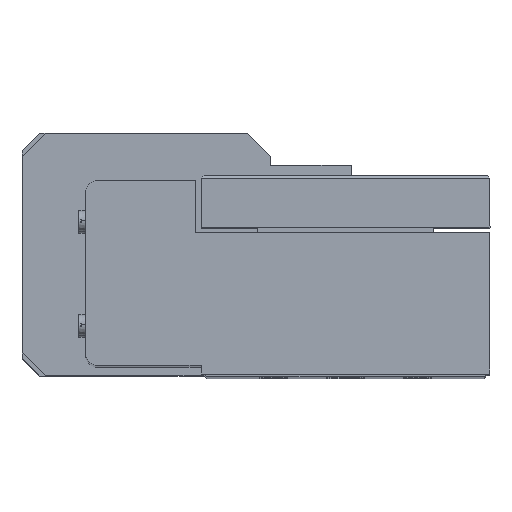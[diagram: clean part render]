
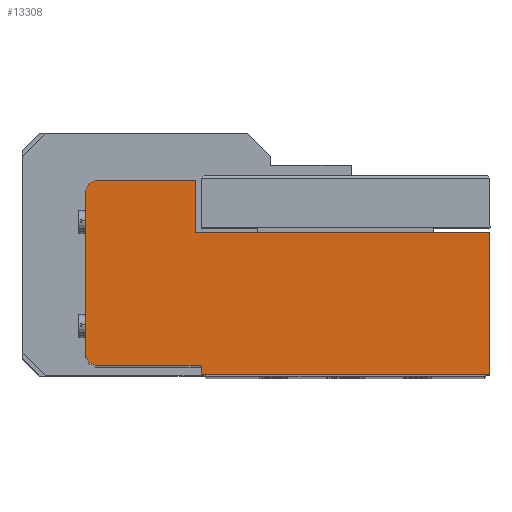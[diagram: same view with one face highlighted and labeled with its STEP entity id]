
A CAD part, top view. The second image highlights one B-rep face of the part: STEP entity #13308.
In plain terms, the highlighted planar face has unit normal (0, 0, 1).
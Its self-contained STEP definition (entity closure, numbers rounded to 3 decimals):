
#7714 = VERTEX_POINT ( 'NONE', #37649 ) ;
#7727 = VERTEX_POINT ( 'NONE', #37689 ) ;
#7758 = EDGE_CURVE ( 'NONE', #7727, #7714, #37775, .T. ) ;
#7775 = VERTEX_POINT ( 'NONE', #37803 ) ;
#7779 = EDGE_CURVE ( 'NONE', #7775, #7727, #37797, .T. ) ;
#7824 = VERTEX_POINT ( 'NONE', #37848 ) ;
#7828 = EDGE_CURVE ( 'NONE', #7824, #7775, #37846, .T. ) ;
#7871 = VERTEX_POINT ( 'NONE', #37960 ) ;
#7877 = EDGE_CURVE ( 'NONE', #7871, #7824, #37952, .T. ) ;
#8425 = VERTEX_POINT ( 'NONE', #39080 ) ;
#8432 = EDGE_CURVE ( 'NONE', #8425, #7871, #39074, .T. ) ;
#13308 = ADVANCED_FACE ( 'NONE', ( #49457 ), #49456, .F. ) ;
#13310 = EDGE_LOOP ( 'NONE', ( #13314, #13454, #13463, #13387, #13393, #13396, #13408, #13419, #13489, #13496 ) ) ;
#13314 = ORIENTED_EDGE ( 'NONE', *, *, #7758, .F. ) ;
#13373 = EDGE_CURVE ( 'NONE', #7714, #13376, #49782, .T. ) ;
#13376 = VERTEX_POINT ( 'NONE', #49827 ) ;
#13387 = ORIENTED_EDGE ( 'NONE', *, *, #7877, .F. ) ;
#13393 = ORIENTED_EDGE ( 'NONE', *, *, #8432, .F. ) ;
#13396 = ORIENTED_EDGE ( 'NONE', *, *, #13400, .F. ) ;
#13400 = EDGE_CURVE ( 'NONE', #13402, #8425, #49848, .T. ) ;
#13402 = VERTEX_POINT ( 'NONE', #49905 ) ;
#13408 = ORIENTED_EDGE ( 'NONE', *, *, #13412, .F. ) ;
#13412 = EDGE_CURVE ( 'NONE', #13414, #13402, #49890, .T. ) ;
#13414 = VERTEX_POINT ( 'NONE', #49921 ) ;
#13419 = ORIENTED_EDGE ( 'NONE', *, *, #13422, .F. ) ;
#13422 = EDGE_CURVE ( 'NONE', #13482, #13414, #49949, .T. ) ;
#13454 = ORIENTED_EDGE ( 'NONE', *, *, #7779, .F. ) ;
#13463 = ORIENTED_EDGE ( 'NONE', *, *, #7828, .F. ) ;
#13482 = VERTEX_POINT ( 'NONE', #50078 ) ;
#13489 = ORIENTED_EDGE ( 'NONE', *, *, #13491, .F. ) ;
#13491 = EDGE_CURVE ( 'NONE', #13376, #13482, #50122, .T. ) ;
#13496 = ORIENTED_EDGE ( 'NONE', *, *, #13373, .F. ) ;
#37649 = CARTESIAN_POINT ( 'NONE',  ( -1., 19.73, 239.071 ) ) ;
#37689 = CARTESIAN_POINT ( 'NONE',  ( -1., 28.73, 239.071 ) ) ;
#37772 = DIRECTION ( 'NONE',  ( 0., -1., 0. ) ) ;
#37773 = VECTOR ( 'NONE', #37772, 1000. ) ;
#37774 = CARTESIAN_POINT ( 'NONE',  ( -1., 9.884, 239.071 ) ) ;
#37775 = LINE ( 'NONE', #37774, #37773 ) ;
#37794 = DIRECTION ( 'NONE',  ( 1., 0., 0. ) ) ;
#37795 = VECTOR ( 'NONE', #37794, 1000. ) ;
#37796 = CARTESIAN_POINT ( 'NONE',  ( 13.207, 28.73, 239.071 ) ) ;
#37797 = LINE ( 'NONE', #37796, #37795 ) ;
#37803 = CARTESIAN_POINT ( 'NONE',  ( -18., 28.73, 239.071 ) ) ;
#37842 = DIRECTION ( 'NONE',  ( 0., 1., 0. ) ) ;
#37843 = DIRECTION ( 'NONE',  ( 0., 0., -1. ) ) ;
#37844 = CARTESIAN_POINT ( 'NONE',  ( -18., 26.73, 239.071 ) ) ;
#37845 = AXIS2_PLACEMENT_3D ( 'NONE', #37844, #37843, #37842 ) ;
#37846 = CIRCLE ( 'NONE', #37845, 2. ) ;
#37848 = CARTESIAN_POINT ( 'NONE',  ( -20., 26.73, 239.071 ) ) ;
#37949 = DIRECTION ( 'NONE',  ( 0., 1., 0. ) ) ;
#37950 = VECTOR ( 'NONE', #37949, 1000. ) ;
#37951 = CARTESIAN_POINT ( 'NONE',  ( -20., 9.884, 239.071 ) ) ;
#37952 = LINE ( 'NONE', #37951, #37950 ) ;
#37960 = CARTESIAN_POINT ( 'NONE',  ( -20., -1.27, 239.071 ) ) ;
#39070 = DIRECTION ( 'NONE',  ( 0., 1., 0. ) ) ;
#39071 = DIRECTION ( 'NONE',  ( 0., 0., -1. ) ) ;
#39072 = CARTESIAN_POINT ( 'NONE',  ( -18., -1.27, 239.071 ) ) ;
#39073 = AXIS2_PLACEMENT_3D ( 'NONE', #39072, #39071, #39070 ) ;
#39074 = CIRCLE ( 'NONE', #39073, 2. ) ;
#39080 = CARTESIAN_POINT ( 'NONE',  ( -18., -3.27, 239.071 ) ) ;
#49218 = CARTESIAN_POINT ( 'NONE',  ( 13.207, 9.884, 239.071 ) ) ;
#49219 = AXIS2_PLACEMENT_3D ( 'NONE', #49218, #49689, #49688 ) ;
#49456 = PLANE ( 'NONE',  #49219 ) ;
#49457 = FACE_OUTER_BOUND ( 'NONE', #13310, .T. ) ;
#49688 = DIRECTION ( 'NONE',  ( 0., 1., 0. ) ) ;
#49689 = DIRECTION ( 'NONE',  ( 0., 0., -1. ) ) ;
#49781 = CARTESIAN_POINT ( 'NONE',  ( 13.207, 19.73, 239.071 ) ) ;
#49782 = LINE ( 'NONE', #49781, #49840 ) ;
#49827 = CARTESIAN_POINT ( 'NONE',  ( 50., 19.73, 239.071 ) ) ;
#49839 = DIRECTION ( 'NONE',  ( 1., 0., 0. ) ) ;
#49840 = VECTOR ( 'NONE', #49839, 1000. ) ;
#49845 = DIRECTION ( 'NONE',  ( -1., 0., 0. ) ) ;
#49846 = VECTOR ( 'NONE', #49845, 1000. ) ;
#49847 = CARTESIAN_POINT ( 'NONE',  ( -18., -3.27, 239.071 ) ) ;
#49848 = LINE ( 'NONE', #49847, #49846 ) ;
#49887 = DIRECTION ( 'NONE',  ( 0., 1., 0. ) ) ;
#49888 = VECTOR ( 'NONE', #49887, 1000. ) ;
#49889 = CARTESIAN_POINT ( 'NONE',  ( 0., 9.884, 239.071 ) ) ;
#49890 = LINE ( 'NONE', #49889, #49888 ) ;
#49905 = CARTESIAN_POINT ( 'NONE',  ( 0., -3.27, 239.071 ) ) ;
#49921 = CARTESIAN_POINT ( 'NONE',  ( 0., -4.77, 239.071 ) ) ;
#49949 = LINE ( 'NONE', #49974, #49973 ) ;
#49972 = DIRECTION ( 'NONE',  ( -1., 0., 0. ) ) ;
#49973 = VECTOR ( 'NONE', #49972, 1000. ) ;
#49974 = CARTESIAN_POINT ( 'NONE',  ( 0., -4.77, 239.071 ) ) ;
#50078 = CARTESIAN_POINT ( 'NONE',  ( 50., -4.77, 239.071 ) ) ;
#50119 = DIRECTION ( 'NONE',  ( 0., -1., 0. ) ) ;
#50120 = VECTOR ( 'NONE', #50119, 1000. ) ;
#50121 = CARTESIAN_POINT ( 'NONE',  ( 50., -4.77, 239.071 ) ) ;
#50122 = LINE ( 'NONE', #50121, #50120 ) ;
